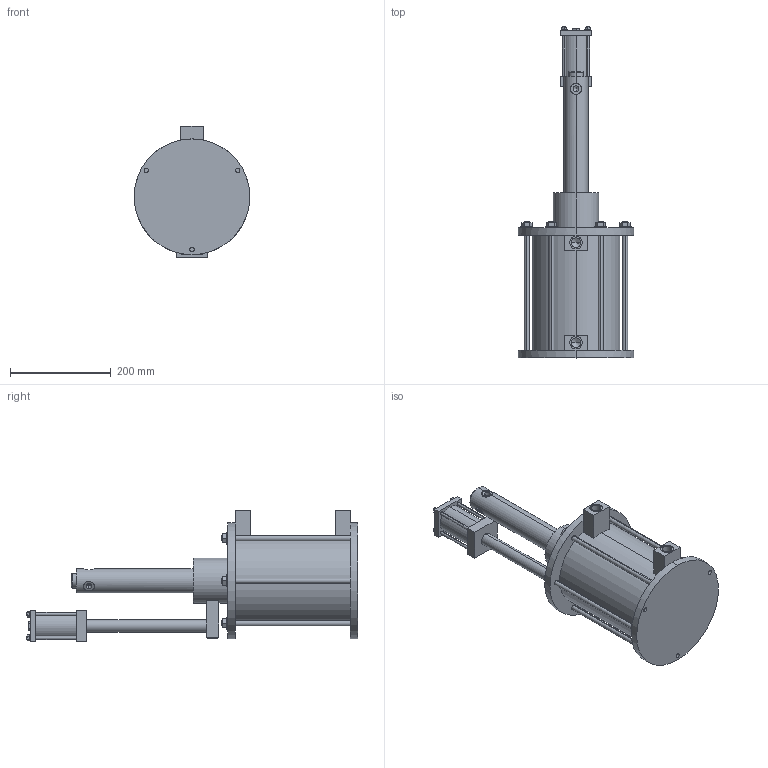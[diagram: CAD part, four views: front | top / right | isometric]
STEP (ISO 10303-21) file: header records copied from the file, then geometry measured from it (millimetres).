
FILE_DESCRIPTION (( 'STEP AP203' ), '1' );
FILE_NAME ('6110-210.STEP', '2016-01-29T10:37:27', ( '' ), ( '' ), 'SwSTEP 2.0', 'SolidWorks 2015', '' );
FILE_SCHEMA (( 'CONFIG_CONTROL_DESIGN' ));
Length unit declared in the file: millimetre
Products named in the file (1): 6110-210
Bounding box: 230 x 660 x 262 mm (x, y, z)
Volume: 3032684.2 mm3; surface area: 637842.6 mm2
Topology: 1 solids, 3 shells, 296 faces, 700 edges, 450 vertices
Faces by surface type: plane 160, cylinder 112, cone 22, torus 2
Entity records: 9159 total; most frequent: CARTESIAN_POINT 2091, DIRECTION 1490, ORIENTED_EDGE 1376, EDGE_CURVE 688, AXIS2_PLACEMENT_3D 539, VERTEX_POINT 450, LINE 412, VECTOR 412
